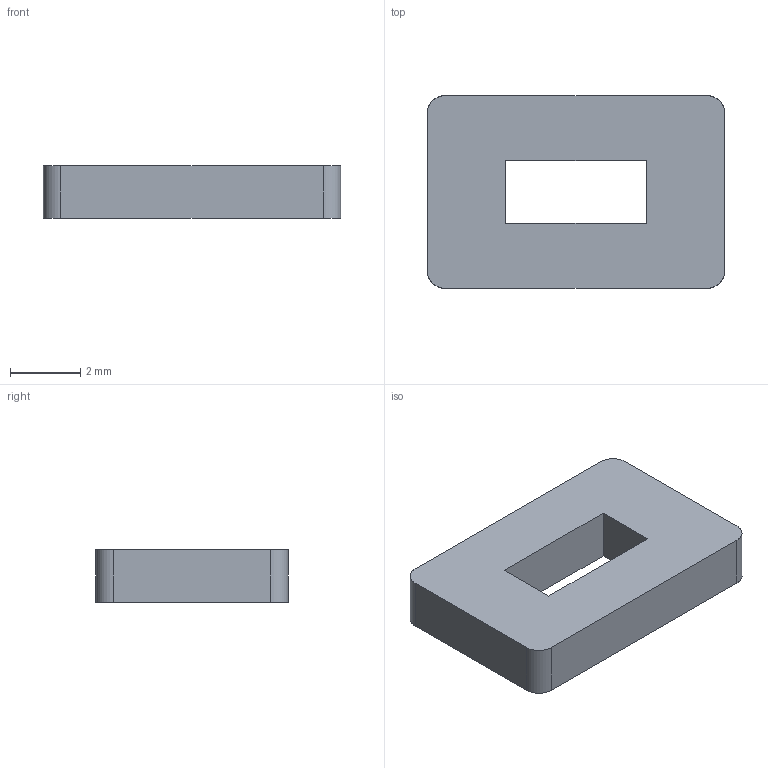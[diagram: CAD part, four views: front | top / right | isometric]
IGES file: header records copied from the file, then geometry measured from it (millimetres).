
Start section: SolidWorks IGES FILE using analytic representation for surfaces
Global section: file name: C:\Documents and Settings\lecoutey\Bureau\GP 538\538.120.00.IGS; native system: SolidWorks 2004 by SolidWorks Corporation; preprocessor: Version 5.3; author: lecoutey; date: 050329.151450; units: millimetre
Bounding box: 8.5 x 5.5 x 1.5 mm (x, y, z)
Surface area: 136.8 mm2 (no closed solid volume)
Topology: 0 solids, 0 shells, 14 faces, 96 edges, 96 vertices
Faces by surface type: bspline 10, revolution 4
